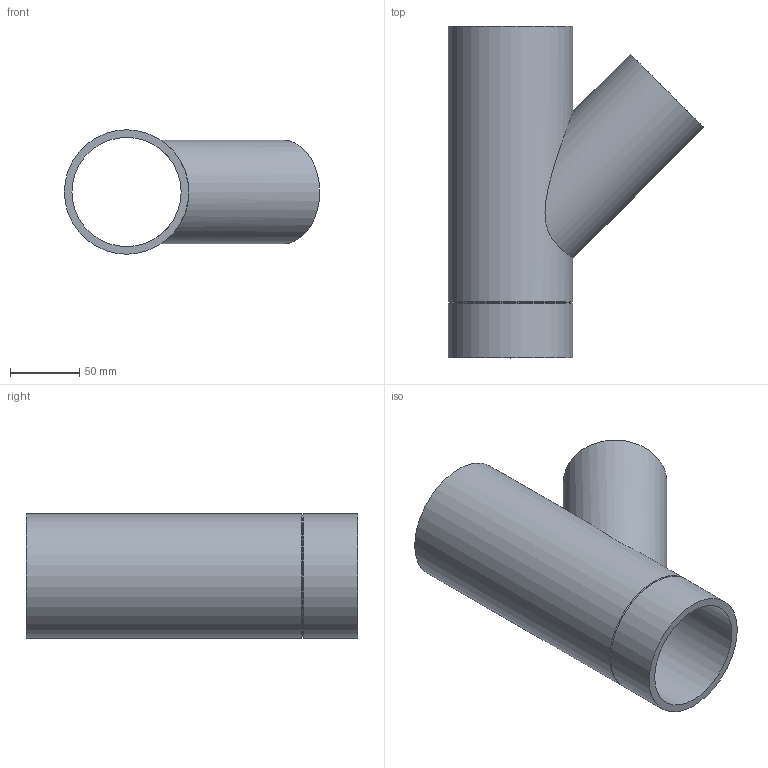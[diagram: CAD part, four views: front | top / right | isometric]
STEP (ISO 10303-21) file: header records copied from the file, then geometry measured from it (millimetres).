
FILE_DESCRIPTION(/* description */ (''),/* implementation_level */ '2;1');
FILE_NAME(/* name */ 'Z:\Geberit\Export\Export18\Abzweig Gerade_Ipart\stp\308074.stp',/* time_stamp */ '2014-08-26T21:51:26+02:00',/* author */ ('ML'),/* organization */ (''),/* preprocessor_version */ 'ST-DEVELOPER v15.2',/* originating_system */ 'Autodesk Inventor 2014',/* authorisation */ '');
FILE_SCHEMA (('AUTOMOTIVE_DESIGN { 1 0 10303 214 3 1 1 }'));
Length unit declared in the file: millimetre
Products named in the file (1): 308074
Bounding box: 184.65 x 240 x 90 mm (x, y, z)
Volume: 405671 mm3; surface area: 169328.7 mm2
Topology: 1 solids, 1 shells, 10 faces, 25 edges, 17 vertices
Faces by surface type: cylinder 5, plane 3, cone 2
Full cylindrical faces by diameter (mm): 67.8 x1, 75 x1, 79 x1, 90 x2
Entity records: 383 total; most frequent: CARTESIAN_POINT 179, DIRECTION 40, EDGE_LOOP 22, ORIENTED_EDGE 22, AXIS2_PLACEMENT_3D 20, FACE_BOUND 17, VERTEX_POINT 11, EDGE_CURVE 11
